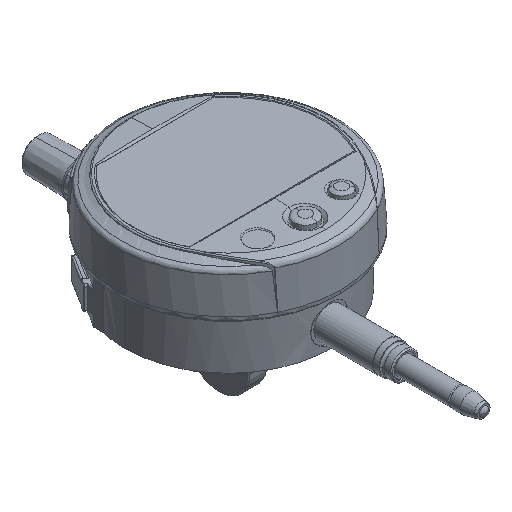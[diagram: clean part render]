
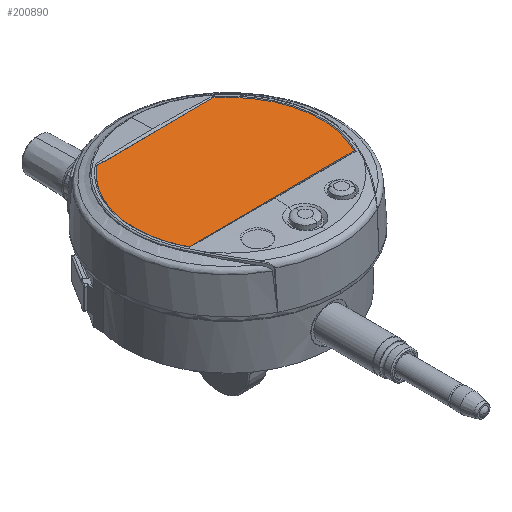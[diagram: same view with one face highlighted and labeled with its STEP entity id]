
A CAD part, isometric view. The second image highlights one B-rep face of the part: STEP entity #200890.
In plain terms, the highlighted planar face has unit normal (-0.004, 0.002, 1).
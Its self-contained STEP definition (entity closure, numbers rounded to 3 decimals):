
#194700=CARTESIAN_POINT('',(-15.202,19.15,
20.333));
#194710=VERTEX_POINT('',#194700);
#194740=CARTESIAN_POINT('',(-15.202,19.15,
20.333));
#194750=CARTESIAN_POINT('',(-16.976,17.742,
20.328));
#194760=CARTESIAN_POINT('',(-18.545,16.094,
20.324));
#194770=CARTESIAN_POINT('',(-21.186,12.414,
20.319));
#194780=CARTESIAN_POINT('',(-22.244,10.4,
20.319));
#194790=CARTESIAN_POINT('',(-23.776,6.137,
20.32));
#194800=CARTESIAN_POINT('',(-24.242,3.909,
20.322));
#194810=CARTESIAN_POINT('',(-24.548,-0.61,
20.329));
#194820=CARTESIAN_POINT('',(-24.386,-2.88,
20.333));
#194830=CARTESIAN_POINT('',(-23.442,-7.31,
20.345));
#194840=CARTESIAN_POINT('',(-22.664,-9.449,
20.353));
#194850=CARTESIAN_POINT('',(-21.604,-11.45,
20.361));
#194860=B_SPLINE_CURVE_WITH_KNOTS('',3,(#194740,#194750,#194760,#194770,
#194780,#194790,#194800,#194810,#194820,#194830,#194840,#194850),
.UNSPECIFIED.,.F.,.F.,(4,2,2,2,2,4),(0.,1.,2.,3.,4.,5.),.UNSPECIFIED.);
#194870=CARTESIAN_POINT('',(-21.604,-11.45,
20.361));
#194880=VERTEX_POINT('',#194870);
#194890=EDGE_CURVE('',#194710,#194880,#194860,.T.);
#200500=CARTESIAN_POINT('',(-12.796,5.41,
20.368));
#200510=DIRECTION('',(-0.004,0.002,
1.));
#200520=DIRECTION('',(0.921,-0.389,
0.005));
#200530=AXIS2_PLACEMENT_3D('',#200500,#200510,#200520);
#200540=PLANE('',#200530);
#200550=CARTESIAN_POINT('',(-0.001,19.15,
20.398));
#200560=DIRECTION('',(-1.,0.,
-0.004));
#200570=VECTOR('',#200560,1.);
#200580=LINE('',#200550,#200570);
#200590=CARTESIAN_POINT('',(15.2,19.15,
20.462));
#200600=VERTEX_POINT('',#200590);
#200610=EDGE_CURVE('',#200600,#194710,#200580,.T.);
#200620=ORIENTED_EDGE('',*,*,#200610,.T.);
#200630=CARTESIAN_POINT('',(21.602,-11.449,
20.545));
#200640=CARTESIAN_POINT('',(22.662,-9.448,
20.546));
#200650=CARTESIAN_POINT('',(23.44,-7.31,
20.545));
#200660=CARTESIAN_POINT('',(24.384,-2.879,
20.541));
#200670=CARTESIAN_POINT('',(24.546,-0.609,
20.538));
#200680=CARTESIAN_POINT('',(24.24,3.91,
20.529));
#200690=CARTESIAN_POINT('',(23.774,6.137,
20.523));
#200700=CARTESIAN_POINT('',(22.242,10.4,
20.508));
#200710=CARTESIAN_POINT('',(21.184,12.415,
20.5));
#200720=CARTESIAN_POINT('',(18.544,16.095,
20.482));
#200730=CARTESIAN_POINT('',(16.974,17.742,
20.473));
#200740=CARTESIAN_POINT('',(15.2,19.15,
20.462));
#200750=B_SPLINE_CURVE_WITH_KNOTS('',3,(#200630,#200640,#200650,#200660,
#200670,#200680,#200690,#200700,#200710,#200720,#200730,#200740),
.UNSPECIFIED.,.F.,.F.,(4,2,2,2,2,4),(0.,1.,2.,3.,4.,5.),.UNSPECIFIED.);
#200760=CARTESIAN_POINT('',(21.602,-11.449,
20.545));
#200770=VERTEX_POINT('',#200760);
#200780=EDGE_CURVE('',#200770,#200600,#200750,.T.);
#200790=ORIENTED_EDGE('',*,*,#200780,.T.);
#200800=CARTESIAN_POINT('',(-0.001,-11.45,
20.453));
#200810=DIRECTION('',(1.,0.,
0.004));
#200820=VECTOR('',#200810,1.);
#200830=LINE('',#200800,#200820);
#200840=EDGE_CURVE('',#194880,#200770,#200830,.T.);
#200850=ORIENTED_EDGE('',*,*,#200840,.T.);
#200860=ORIENTED_EDGE('',*,*,#194890,.T.);
#200870=EDGE_LOOP('',(#200860,#200850,#200790,#200620));
#200880=FACE_OUTER_BOUND('',#200870,.T.);
#200890=ADVANCED_FACE('',(#200880),#200540,.T.);
